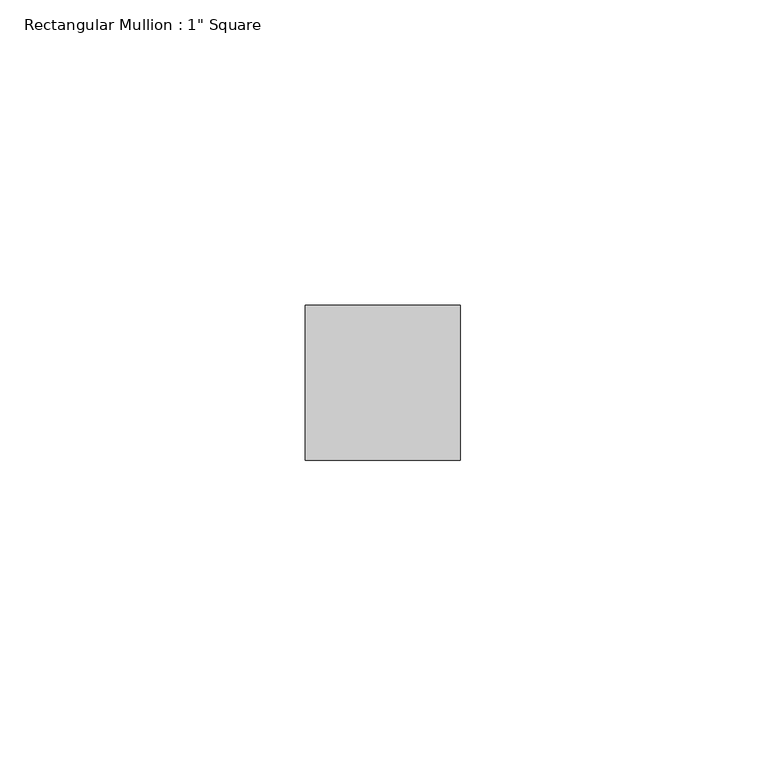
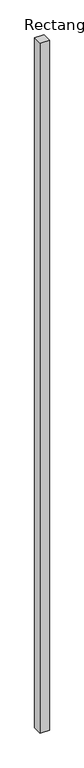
"""IFC4 building model written with IfcOpenShell, lengths in millimetres: member geometry."""

from ifc_helpers import new_model, si_unit, frame, origin, place, context, project, spatial, polyline, outline, extrude, source, transform, mapped, element, save


def member_824fc51d(model_context):
    return source(origin(), model_context, "Body", "SweptSolid", [
        extrude(outline(polyline([(12.7, 12.7), (12.7, -12.7), (-12.7, -12.7), (-12.7, 12.7), (12.7, 12.7)])), frame((0.0, 0.0, -1998.256226), z_axis=(0.0, 0.0, 1.0), x_axis=(1.0, 0.0, 0.0)), (0.0, 0.0, 1.0), 1998.256226),
    ])


if __name__ == "__main__":
    model = new_model("IFC4")
    model_context = context("Model", 3, world=origin())
    ifc_project = project(units=[si_unit("LENGTHUNIT", "METRE", prefix="MILLI")], contexts=[model_context])
    site = spatial("IfcSite", under=ifc_project)
    building = spatial("IfcBuilding", under=site)
    placement = place(None, origin())
    member_shape = member_824fc51d(model_context)
    element("IfcMember", 1, ObjectType="Rectangular Mullion : 1\" Square", at=placement, inside=building, context=model_context, shape_type="MappedRepresentation", body=[
        mapped(member_shape, transform((0.0, 0.0, 0.0), x_axis=(1.0, 0.0, 0.0), y_axis=(0.0, 1.0, 0.0), z_axis=(0.0, 0.0, 1.0))),
    ])
    save(model, "model.ifc")
